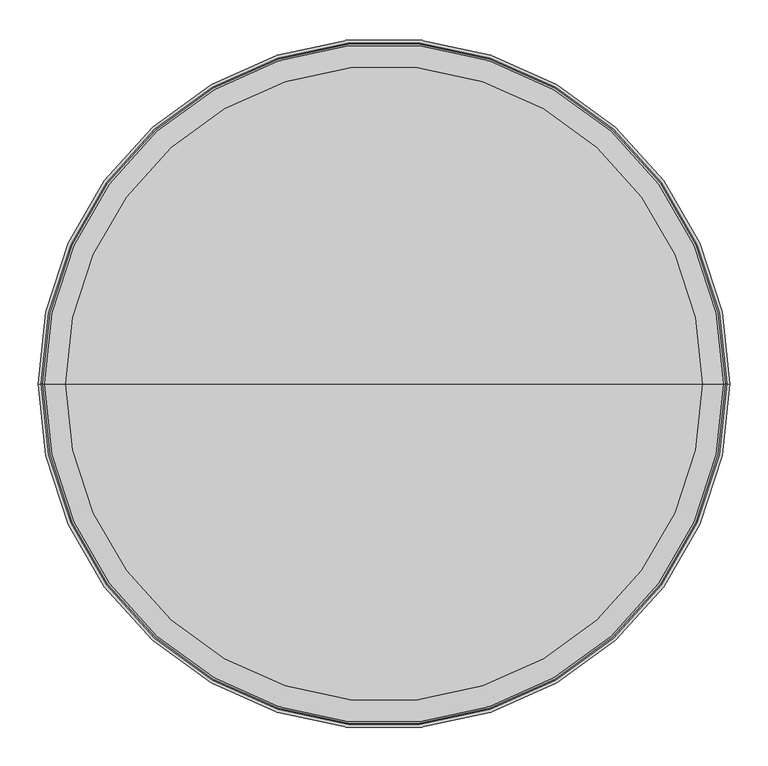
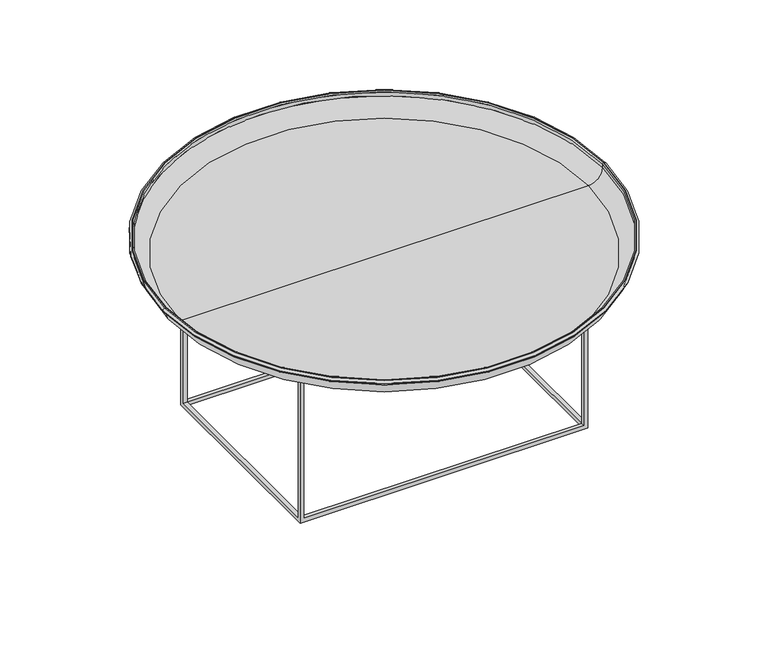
"""IFC4 building model written with IfcOpenShell, lengths in millimetres: furniture geometry, Norr11 - Duke - Coffe Table - Large : Norr11 - Duke - Coffe Table - Large."""

from ifc_helpers import new_model, si_unit, point, frame, origin, place, context, project, spatial, polyline, circle_curve, ellipse_curve, trimmed, source, transform, mapped, element, save
from ifc_brep_helpers import plane_surface, cylinder_surface, revolved_surface, advanced_brep


def furniture_5a91d970(model_context):
    return source(origin(), model_context, "Body", "AdvancedBrep", [
        advanced_brep(
        [(-284.4651273, 202.0797069, 342.0), (-284.4651273, -201.9202931, 342.0), (-292.4651273, -201.9202931, 342.0), (-292.4651273, 202.0797069, 342.0), (284.5348727, -201.9202931, 342.0), (284.5348727, 202.0797069, 342.0), (292.5348727, 202.0797069, 342.0), (292.5348727, -201.9202931, 342.0), (-292.4651273, 210.0797069, 0.0), (-292.4651273, -209.9202931, 0.0), (-292.4651273, -209.9202931, 349.8), (-292.4651273, 0.0, 349.8), (-292.4651273, 210.0797069, 349.8), (-292.4651273, -201.9202931, 8.0), (-292.4651273, 202.0797069, 8.0), (-284.4651273, 202.0797069, 349.8), (-284.4651273, 0.0, 349.8), (-284.4651273, -201.9202931, 349.8), (292.5348727, -209.9202931, 0.0), (292.5348727, 210.0797069, 0.0), (292.5348727, 210.0797069, 349.8), (292.5348727, 0.0, 349.8), (292.5348727, -209.9202931, 349.8), (292.5348727, 202.0797069, 8.0), (292.5348727, -201.9202931, 8.0), (284.5348727, -201.9202931, 349.8), (284.5348727, 0.0, 349.8), (284.5348727, 202.0797069, 349.8), (284.5348727, -209.9202931, 342.0), (-284.4651273, -209.9202931, 342.0), (-284.4651273, 210.0797069, 342.0), (284.5348727, 210.0797069, 342.0), (284.5348727, -209.9202931, 8.0), (-284.4651273, -209.9202931, 8.0), (-284.4651273, 210.0797069, 8.0), (284.5348727, 210.0797069, 8.0), (-284.4651273, -201.9202931, 0.0), (284.5348727, -201.9202931, 0.0), (284.5348727, 202.0797069, 0.0), (-284.4651273, 202.0797069, 0.0), (-284.4651273, 202.0797069, 8.0), (-284.4651273, -201.9202931, 8.0), (284.5348727, -201.9202931, 8.0), (284.5348727, 202.0797069, 8.0), (414.4651273, 0.0, 351.3), (-414.4651273, 0.0, 351.3), (0.0, 0.0, 351.3), (442.9651273, 0.0, 379.8), (-442.9651273, 0.0, 379.8), (442.9651273, 0.0, 387.820947), (-442.9651273, 0.0, 387.820947), (444.9441798, 0.0, 389.7999996), (-444.9441798, 0.0, 389.7999996), (446.4651273, 0.0, 389.7999996), (-446.4651273, 0.0, 389.7999996), (450.4651273, 0.0, 385.7999996), (-450.4651273, 0.0, 385.7999996), (450.4651273, 0.0, 384.8), (-450.4651273, 0.0, 384.8), (448.7075034, 0.0, 382.1292905), (-448.7075034, 0.0, 382.1292905), (444.4651273, 0.0, 381.866744), (-444.4651273, 0.0, 381.866744), (444.4651273, 0.0, 379.8), (-444.4651273, 0.0, 379.8), (414.4651273, 0.0, 349.8), (-414.4651273, 0.0, 349.8), (0.0, 0.0, 349.8)],
        [
            (0, 1),
            (1, 2),
            (2, 3),
            (3, 0),
            (4, 5),
            (5, 6),
            (6, 7),
            (7, 4),
            (8, 9),
            (9, 10),
            (10, 11),
            (11, 12),
            (12, 8),
            (2, 13),
            (13, 14),
            (14, 3),
            (0, 15),
            (15, 16),
            (16, 17),
            (17, 1),
            (18, 19),
            (19, 20),
            (20, 21),
            (21, 22),
            (22, 18),
            (6, 23),
            (23, 24),
            (24, 7),
            (4, 25),
            (25, 26),
            (26, 27),
            (27, 5),
            (28, 29),
            (29, 1),
            (1, 4),
            (4, 28),
            (5, 0),
            (0, 30),
            (30, 31),
            (31, 5),
            (17, 25),
            (9, 18),
            (22, 10),
            (28, 32),
            (32, 33),
            (33, 29),
            (19, 8),
            (12, 20),
            (30, 34),
            (34, 35),
            (35, 31),
            (27, 15),
            (36, 37),
            (37, 38),
            (38, 39),
            (39, 36),
            (14, 40),
            (40, 0),
            (33, 41),
            (41, 1),
            (40, 34),
            (40, 41),
            (41, 36),
            (39, 40),
            (4, 42),
            (42, 32),
            (35, 43),
            (43, 5),
            (42, 43),
            (43, 38),
            (37, 42),
            (43, 23),
            (24, 42),
            (41, 13),
            (40, 43),
            (42, 41),
            (44, 45, circle_curve(frame((0.0, 0.0, 351.3), z_axis=(0.0, 0.0, 1.0), x_axis=(-1.0, 0.0, 0.0)), 414.4651273)),
            (45, 46),
            (46, 44),
            (45, 44, circle_curve(frame((0.0, 0.0, 351.3), z_axis=(0.0, 0.0, 1.0), x_axis=(-1.0, 0.0, 0.0)), 414.4651273)),
            (44, 47, circle_curve(frame((414.4651273, 0.0, 379.8), z_axis=(0.0, -1.0, 0.0), x_axis=(-1.0, 0.0, 0.0)), 28.5)),
            (47, 48, circle_curve(frame((0.0, 0.0, 379.8), z_axis=(0.0, 0.0, 1.0), x_axis=(-1.0, 0.0, 0.0)), 442.9651273)),
            (48, 45, circle_curve(frame((-414.4651273, 0.0, 379.8), z_axis=(0.0, -1.0, 0.0), x_axis=(1.0, 0.0, 0.0)), 28.5)),
            (48, 47, circle_curve(frame((0.0, 0.0, 379.8), z_axis=(0.0, 0.0, 1.0), x_axis=(-1.0, 0.0, 0.0)), 442.9651273)),
            (47, 49),
            (49, 50, circle_curve(frame((0.0, 0.0, 387.820947), z_axis=(0.0, 0.0, 1.0), x_axis=(-1.0, 0.0, 0.0)), 442.9651273)),
            (50, 48),
            (50, 49, circle_curve(frame((0.0, 0.0, 387.820947), z_axis=(0.0, 0.0, 1.0), x_axis=(-1.0, 0.0, 0.0)), 442.9651273)),
            (49, 51, circle_curve(frame((444.9441798, 0.0, 387.820947), z_axis=(0.0, 1.0, 0.0), x_axis=(-1.0, 0.0, 0.0)), 1.9790525)),
            (51, 52, circle_curve(frame((0.0, 0.0, 389.7999996), z_axis=(0.0, 0.0, 1.0), x_axis=(-1.0, 0.0, 0.0)), 444.9441798)),
            (52, 50, circle_curve(frame((-444.9441798, 0.0, 387.820947), z_axis=(0.0, 1.0, 0.0), x_axis=(1.0, 0.0, 0.0)), 1.9790525)),
            (52, 51, circle_curve(frame((0.0, 0.0, 389.7999996), z_axis=(0.0, 0.0, 1.0), x_axis=(-1.0, 0.0, 0.0)), 444.9441798)),
            (51, 53),
            (53, 54, circle_curve(frame((0.0, 0.0, 389.7999996), z_axis=(0.0, 0.0, 1.0), x_axis=(-1.0, 0.0, 0.0)), 446.4651273)),
            (54, 52),
            (54, 53, circle_curve(frame((0.0, 0.0, 389.7999996), z_axis=(0.0, 0.0, 1.0), x_axis=(-1.0, 0.0, 0.0)), 446.4651273)),
            (53, 55, circle_curve(frame((446.4651273, 0.0, 385.7999996), z_axis=(0.0, 1.0, 0.0), x_axis=(-1.0, 0.0, 0.0)), 4.0)),
            (55, 56, circle_curve(frame((0.0, 0.0, 385.7999996), z_axis=(0.0, 0.0, 1.0), x_axis=(-1.0, 0.0, 0.0)), 450.4651273)),
            (56, 54, circle_curve(frame((-446.4651273, 0.0, 385.7999996), z_axis=(0.0, 1.0, 0.0), x_axis=(1.0, 0.0, 0.0)), 4.0)),
            (56, 55, circle_curve(frame((0.0, 0.0, 385.7999996), z_axis=(0.0, 0.0, 1.0), x_axis=(-1.0, 0.0, 0.0)), 450.4651273)),
            (55, 57),
            (57, 58, circle_curve(frame((0.0, 0.0, 384.8), z_axis=(0.0, 0.0, 1.0), x_axis=(-1.0, 0.0, 0.0)), 450.4651273)),
            (58, 56),
            (58, 57, circle_curve(frame((0.0, 0.0, 384.8), z_axis=(0.0, 0.0, 1.0), x_axis=(-1.0, 0.0, 0.0)), 450.4651273)),
            (57, 59, circle_curve(frame((447.5572438, 0.0, 384.8), z_axis=(0.0, 1.0, 0.0), x_axis=(-1.0, 0.0, 0.0)), 2.9078835)),
            (59, 60, circle_curve(frame((0.0, 0.0, 382.1292905), z_axis=(0.0, 0.0, 1.0), x_axis=(-1.0, 0.0, 0.0)), 448.7075034)),
            (60, 58, circle_curve(frame((-447.5572438, 0.0, 384.8), z_axis=(0.0, 1.0, 0.0), x_axis=(1.0, 0.0, 0.0)), 2.9078835)),
            (60, 59, circle_curve(frame((0.0, 0.0, 382.1292905), z_axis=(0.0, 0.0, 1.0), x_axis=(-1.0, 0.0, 0.0)), 448.7075034)),
            (59, 61, circle_curve(frame((446.2208885, 0.0, 387.9027925), z_axis=(0.0, 1.0, 0.0), x_axis=(-1.0, 0.0, 0.0)), 6.2862214)),
            (61, 62, circle_curve(frame((0.0, 0.0, 381.866744), z_axis=(0.0, 0.0, 1.0), x_axis=(-1.0, 0.0, 0.0)), 444.4651273)),
            (62, 60, circle_curve(frame((-446.2208885, 0.0, 387.9027925), z_axis=(0.0, 1.0, 0.0), x_axis=(1.0, 0.0, 0.0)), 6.2862214)),
            (62, 61, circle_curve(frame((0.0, 0.0, 381.866744), z_axis=(0.0, 0.0, 1.0), x_axis=(-1.0, 0.0, 0.0)), 444.4651273)),
            (61, 63),
            (63, 64, circle_curve(frame((0.0, 0.0, 379.8), z_axis=(0.0, 0.0, 1.0), x_axis=(-1.0, 0.0, 0.0)), 444.4651273)),
            (64, 62),
            (64, 63, circle_curve(frame((0.0, 0.0, 379.8), z_axis=(0.0, 0.0, 1.0), x_axis=(-1.0, 0.0, 0.0)), 444.4651273)),
            (63, 65, circle_curve(frame((414.4651273, 0.0, 379.8), z_axis=(0.0, 1.0, 0.0), x_axis=(-1.0, 0.0, 0.0)), 30.0)),
            (65, 66, circle_curve(frame((0.0, 0.0, 349.8), z_axis=(0.0, 0.0, 1.0), x_axis=(-1.0, 0.0, 0.0)), 414.4651273)),
            (66, 64, circle_curve(frame((-414.4651273, 0.0, 379.8), z_axis=(0.0, 1.0, 0.0), x_axis=(1.0, 0.0, 0.0)), 30.0)),
            (66, 65, circle_curve(frame((0.0, 0.0, 349.8), z_axis=(0.0, 0.0, 1.0), x_axis=(-1.0, 0.0, 0.0)), 414.4651273)),
            (65, 21),
            (11, 66),
            (67, 16),
            (26, 67),
        ],
        [
            plane_surface(frame((-292.4651273, 202.0797069, 342.0), z_axis=(0.0, 0.0, -1.0), x_axis=(1.0, 0.0, 0.0))),
            plane_surface(frame((-292.4651273, 202.0797069, 350.0), z_axis=(-1.0, 0.0, 0.0), x_axis=(0.0, 0.0, -1.0))),
            plane_surface(frame((-284.4651273, -201.9202931, 350.0), z_axis=(1.0, 0.0, 0.0), x_axis=(0.0, 0.0, -1.0))),
            plane_surface(frame((292.5348727, -201.9202931, 350.0), z_axis=(1.0, 0.0, 0.0), x_axis=(0.0, 0.0, -1.0))),
            plane_surface(frame((284.5348727, 202.0797069, 350.0), z_axis=(-1.0, 0.0, 0.0), x_axis=(0.0, 0.0, -1.0))),
            plane_surface(frame((-284.4651273, -201.9202931, 342.0), z_axis=(0.0, 0.0, -1.0), x_axis=(1.0, 0.0, 0.0))),
            plane_surface(frame((284.5348727, -201.9202931, 350.0), z_axis=(0.0, 1.0, 0.0), x_axis=(0.0, 0.0, -1.0))),
            plane_surface(frame((-284.4651273, -209.9202931, 350.0), z_axis=(0.0, -1.0, 0.0), x_axis=(0.0, 0.0, -1.0))),
            plane_surface(frame((284.5348727, 210.0797069, 350.0), z_axis=(0.0, 1.0, 0.0), x_axis=(0.0, 0.0, -1.0))),
            plane_surface(frame((-284.4651273, 202.0797069, 350.0), z_axis=(0.0, -1.0, 0.0), x_axis=(0.0, 0.0, -1.0))),
            plane_surface(frame((-292.4651273, 210.0797069, 0.0), z_axis=(0.0, 0.0, -1.0), x_axis=(1.0, 0.0, 0.0))),
            plane_surface(frame((-292.4651273, 202.0797069, 350.0), z_axis=(0.0, -1.0, 0.0), x_axis=(0.0, 0.0, -1.0))),
            plane_surface(frame((-284.4651273, 202.0797069, 350.0), z_axis=(1.0, 0.0, 0.0), x_axis=(0.0, 0.0, -1.0))),
            plane_surface(frame((284.5348727, 210.0797069, 350.0), z_axis=(-1.0, 0.0, 0.0), x_axis=(0.0, 0.0, -1.0))),
            plane_surface(frame((284.5348727, 202.0797069, 350.0), z_axis=(0.0, -1.0, 0.0), x_axis=(0.0, 0.0, -1.0))),
            plane_surface(frame((292.5348727, -201.9202931, 350.0), z_axis=(0.0, 1.0, 0.0), x_axis=(0.0, 0.0, -1.0))),
            plane_surface(frame((-284.4651273, -201.9202931, 350.0), z_axis=(0.0, 1.0, 0.0), x_axis=(0.0, 0.0, -1.0))),
            plane_surface(frame((-292.4651273, 202.0797069, 8.0), z_axis=(0.0, 0.0, 1.0), x_axis=(-1.0, 0.0, 0.0))),
            plane_surface(frame((-284.4651273, -201.9202931, 8.0), z_axis=(0.0, 0.0, 1.0), x_axis=(-1.0, 0.0, 0.0))),
            plane_surface(frame((284.5348727, -201.9202931, 8.0), z_axis=(0.0, 1.0, 0.0), x_axis=(0.0, 0.0, -1.0))),
            plane_surface(frame((-284.4651273, 202.0797069, 8.0), z_axis=(0.0, -1.0, 0.0), x_axis=(0.0, 0.0, -1.0))),
            plane_surface(frame((0.0, 0.0, 351.3), z_axis=(0.0, 0.0, 1.0), x_axis=(-1.0, 0.0, 0.0))),
            revolved_surface(trimmed(ellipse_curve(frame((-414.4651273, 0.0, 379.8), z_axis=(0.0, 1.0, 0.0), x_axis=(1.0, 0.0, 0.0)), 28.5, 28.5), [point((-414.4651273, 0.0, 351.3))], [point((-442.9651273, 0.0, 379.8))], True, "CARTESIAN"), (0.0, 0.0, 470.0), (0.0, 0.0, -1.0)),
            revolved_surface(polyline([(-442.9651273, 0.0, 379.8), (-442.9651273, 0.0, 387.820947)]), (0.0, 0.0, 470.0), (0.0, 0.0, -1.0)),
            revolved_surface(trimmed(ellipse_curve(frame((-444.9441798, 0.0, 387.820947), z_axis=(0.0, -1.0, 0.0), x_axis=(1.0, 0.0, 0.0)), 1.9790525, 1.9790525), [point((-442.9651273, 0.0, 387.820947))], [point((-444.9441798, 0.0, 389.7999996))], True, "CARTESIAN"), (0.0, 0.0, 470.0), (0.0, 0.0, -1.0)),
            plane_surface(frame((0.0, 0.0, 389.7999996), z_axis=(0.0, 0.0, 1.0), x_axis=(-1.0, 0.0, 0.0))),
            revolved_surface(trimmed(ellipse_curve(frame((-446.4651273, 0.0, 385.7999996), z_axis=(0.0, -1.0, 0.0), x_axis=(1.0, 0.0, 0.0)), 4.0, 4.0), [point((-446.4651273, 0.0, 389.7999996))], [point((-450.4651273, 0.0, 385.7999996))], True, "CARTESIAN"), (0.0, 0.0, 470.0), (0.0, 0.0, -1.0)),
            cylinder_surface(frame((0.0, 0.0, 470.0), z_axis=(0.0, 0.0, -1.0), x_axis=(-1.0, 0.0, 0.0)), 450.4651273),
            revolved_surface(trimmed(ellipse_curve(frame((-447.5572438, 0.0, 384.8), z_axis=(0.0, -1.0, 0.0), x_axis=(1.0, 0.0, 0.0)), 2.9078835, 2.9078835), [point((-450.4651273, 0.0, 384.8))], [point((-448.7075034, 0.0, 382.1292905))], True, "CARTESIAN"), (0.0, 0.0, 470.0), (0.0, 0.0, -1.0)),
            revolved_surface(trimmed(ellipse_curve(frame((-446.2208885, 0.0, 387.9027925), z_axis=(0.0, -1.0, 0.0), x_axis=(1.0, 0.0, 0.0)), 6.2862214, 6.2862214), [point((-448.7075034, 0.0, 382.1292905))], [point((-444.4651273, 0.0, 381.866744))], True, "CARTESIAN"), (0.0, 0.0, 470.0), (0.0, 0.0, -1.0)),
            cylinder_surface(frame((0.0, 0.0, 470.0), z_axis=(0.0, 0.0, -1.0), x_axis=(-1.0, 0.0, 0.0)), 444.4651273),
            revolved_surface(trimmed(ellipse_curve(frame((-414.4651273, 0.0, 379.8), z_axis=(0.0, -1.0, 0.0), x_axis=(1.0, 0.0, 0.0)), 30.0, 30.0), [point((-444.4651273, 0.0, 379.8))], [point((-414.4651273, 0.0, 349.8))], True, "CARTESIAN"), (0.0, 0.0, 470.0), (0.0, 0.0, -1.0)),
            plane_surface(frame((0.0, 0.0, 349.8), z_axis=(0.0, 0.0, -1.0), x_axis=(-1.0, 0.0, 0.0))),
        ],
        [
            (0, [[1, 2, 3, 4]]),
            (0, [[5, 6, 7, 8]]),
            (1, [[9, 10, 11, 12, 13], [-3, 14, 15, 16]]),
            (2, [[-1, 17, 18, 19, 20]]),
            (3, [[21, 22, 23, 24, 25], [-7, 26, 27, 28]]),
            (4, [[-5, 29, 30, 31, 32]]),
            (5, [[33, 34, 35, 36]]),
            (5, [[37, 38, 39, 40]]),
            (6, [[-35, -20, 41, -29]]),
            (7, [[42, -25, 43, -10], [-33, 44, 45, 46]]),
            (8, [[47, -13, 48, -22], [-39, 49, 50, 51]]),
            (9, [[-37, -32, 52, -17]]),
            (10, [[-9, -47, -21, -42], [53, 54, 55, 56]]),
            (11, [[-4, -16, 57, 58]]),
            (12, [[-34, -46, 59, 60]]),
            (12, [[-38, -58, 61, -49]]),
            (12, [[62, 63, -56, 64]]),
            (13, [[-36, 65, 66, -44]]),
            (13, [[-40, -51, 67, 68]]),
            (13, [[69, 70, -54, 71]]),
            (14, [[-6, -68, 72, -26]]),
            (15, [[-8, -28, 73, -65]]),
            (16, [[-2, -60, 74, -14]]),
            (17, [[-15, -74, -62, -57]]),
            (17, [[-27, -72, -69, -73]]),
            (18, [[-50, -61, 75, -67]]),
            (18, [[76, -59, -45, -66]]),
            (19, [[-76, -71, -53, -63]]),
            (20, [[-75, -64, -55, -70]]),
            (21, [[77, 78, 79]]),
            (21, [[-78, 80, -79]]),
            (22, [[-77, 81, 82, 83]]),
            (22, [[-80, -83, 84, -81]]),
            (23, [[-82, 85, 86, 87]]),
            (23, [[-84, -87, 88, -85]]),
            (24, [[-86, 89, 90, 91]]),
            (24, [[-88, -91, 92, -89]]),
            (25, [[-90, 93, 94, 95]]),
            (25, [[-92, -95, 96, -93]]),
            (26, [[-94, 97, 98, 99]]),
            (26, [[-96, -99, 100, -97]]),
            (27, [[-98, 101, 102, 103]]),
            (27, [[-100, -103, 104, -101]]),
            (28, [[-102, 105, 106, 107]]),
            (28, [[-104, -107, 108, -105]]),
            (29, [[-106, 109, 110, 111]]),
            (29, [[-108, -111, 112, -109]]),
            (30, [[-110, 113, 114, 115]]),
            (30, [[-112, -115, 116, -113]]),
            (31, [[-114, 117, 118, 119]]),
            (31, [[-116, -119, 120, -117]]),
            (32, [[-118, 121, -23, -48, -12, 122]]),
            (32, [[123, -18, -52, -31, 124]]),
            (32, [[-120, -122, -11, -43, -24, -121]]),
            (32, [[-123, -124, -30, -41, -19]]),
        ],
    ),
    ])


if __name__ == "__main__":
    model = new_model("IFC4")
    model_context = context("Model", 3, world=origin())
    ifc_project = project(units=[si_unit("LENGTHUNIT", "METRE", prefix="MILLI")], contexts=[model_context])
    site = spatial("IfcSite", under=ifc_project)
    building = spatial("IfcBuilding", under=site)
    placement = place(None, origin())
    furniture_shape = furniture_5a91d970(model_context)
    element("IfcFurniture", 1, ObjectType="Norr11 - Duke - Coffe Table - Large : Norr11 - Duke - Coffe Table - Large", at=placement, inside=building, context=model_context, shape_type="MappedRepresentation", body=[
        mapped(furniture_shape, transform((0.0, 0.0, 0.0), x_axis=(1.0, 0.0, 0.0), y_axis=(0.0, 1.0, 0.0), z_axis=(0.0, 0.0, 1.0))),
    ])
    save(model, "model.ifc")
